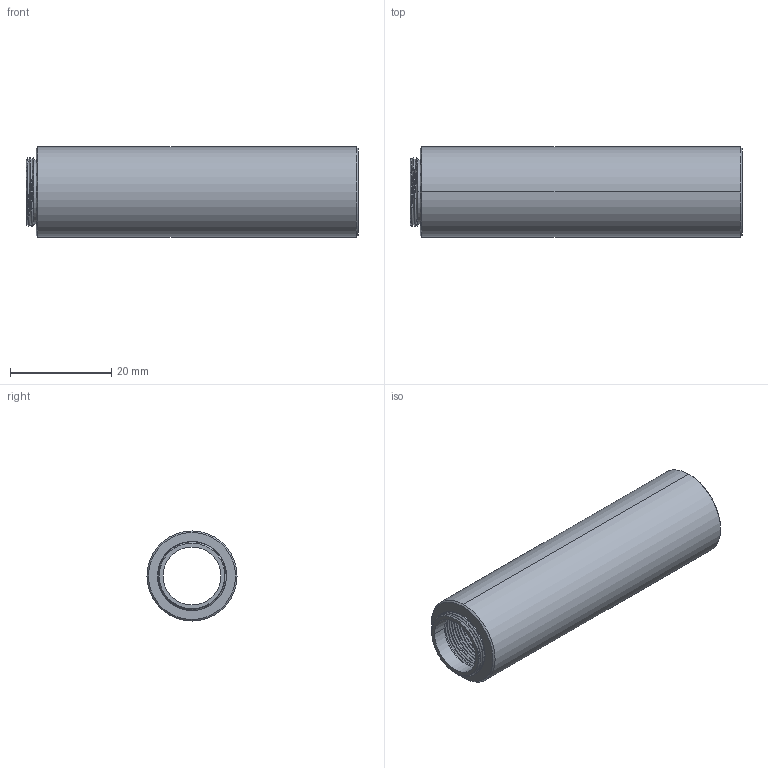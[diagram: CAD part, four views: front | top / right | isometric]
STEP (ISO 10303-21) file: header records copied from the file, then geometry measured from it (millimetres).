
FILE_DESCRIPTION((''),'2;1');
FILE_NAME('SM05L25','2022-11-14T',('daizh'),(''),'CREO PARAMETRIC BY PTC INC, 2018360','CREO PARAMETRIC BY PTC INC, 2018360','');
FILE_SCHEMA(('CONFIG_CONTROL_DESIGN'));
Length unit declared in the file: millimetre
Products named in the file (1): SM05L25
Bounding box: 65.5 x 17.78 x 17.78 mm (x, y, z)
Volume: 6961.8 mm3; surface area: 7595.5 mm2
Topology: 1 solids, 1 shells, 272 faces, 769 edges, 502 vertices
Faces by surface type: cylinder 203, bspline 56, cone 8, plane 5
Entity records: 31357 total; most frequent: CARTESIAN_POINT 25385, ORIENTED_EDGE 1538, EDGE_CURVE 769, DIRECTION 746, VERTEX_POINT 502, B_SPLINE_CURVE_WITH_KNOTS 481, EDGE_LOOP 277, FACE_OUTER_BOUND 272
